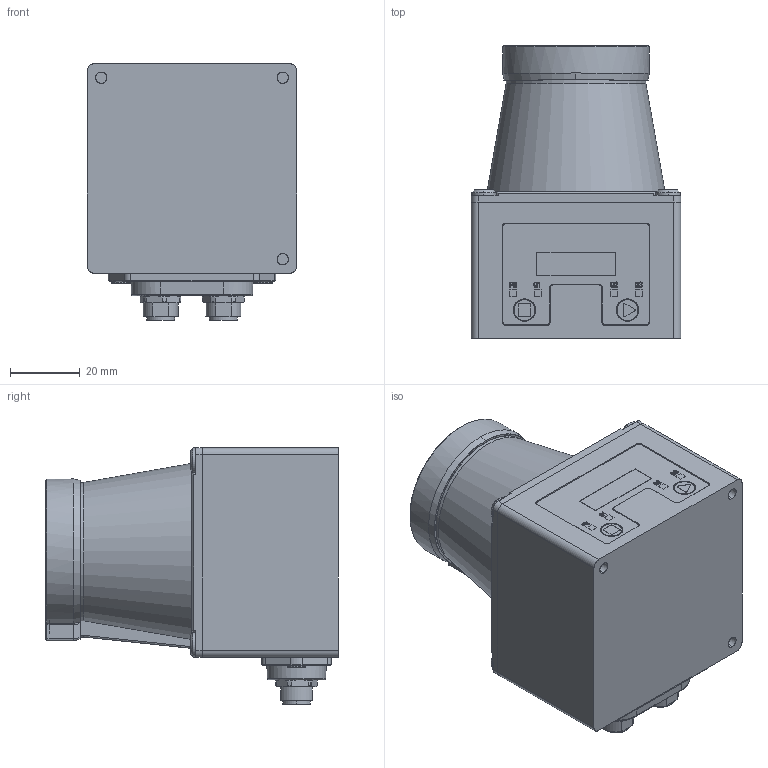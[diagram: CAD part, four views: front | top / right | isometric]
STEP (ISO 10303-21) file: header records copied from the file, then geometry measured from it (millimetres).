
FILE_DESCRIPTION(('FreeCAD Model'),'2;1');
FILE_NAME('Open CASCADE Shape Model','2023-11-23T19:41:18',('Author'),( ''),'Open CASCADE STEP processor 7.6','FreeCAD','Unknown');
FILE_SCHEMA(('AUTOMOTIVE_DESIGN { 1 0 10303 214 1 1 1 1 }'));
Products named in the file (1): HE__________WAN_defeature
Bounding box: 60 x 83.9 x 73.5 mm (x, y, z)
Surface area: 29207.4 mm2 (no closed solid volume)
Topology: 0 solids, 1579 shells, 1579 faces, 12960 edges, 12958 vertices
Faces by surface type: bspline 1067, revolution 512
Entity records: 151286 total; most frequent: CARTESIAN_POINT 57733, ORIENTED_EDGE 12958, EDGE_CURVE 12958, VERTEX_POINT 12958, DIRECTION 9372, B_SPLINE_CURVE_WITH_KNOTS 6288, LINE 5454, VECTOR 5454
